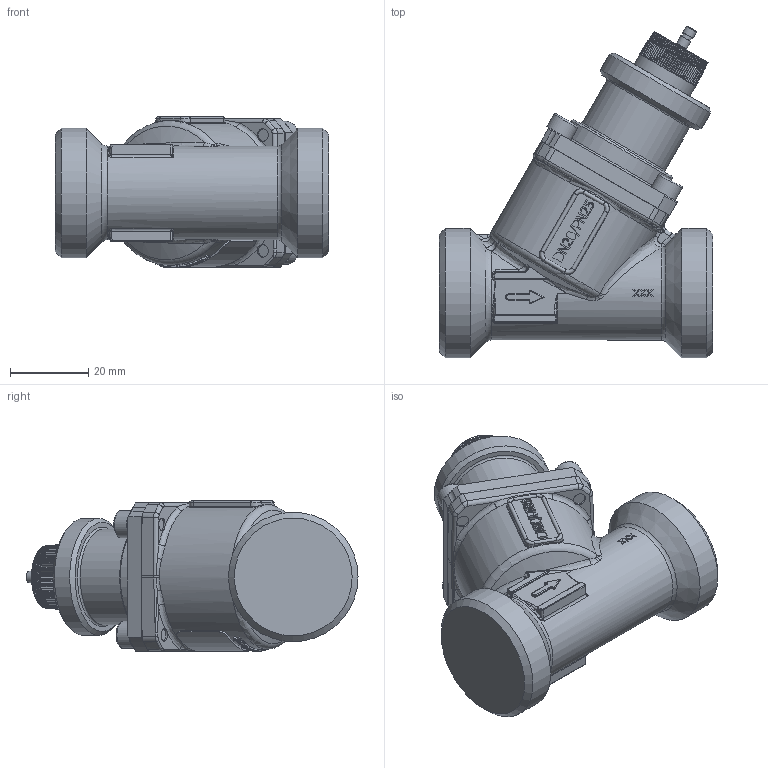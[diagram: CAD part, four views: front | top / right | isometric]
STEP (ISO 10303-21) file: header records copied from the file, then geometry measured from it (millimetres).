
FILE_DESCRIPTION((''),'2;1');
FILE_NAME('F:\Marketing\1marketing\Tegninger\Frese OPTIMA Compact\3D models\OPTIMA Compact MM DN20.stp','2012-09-05T14:53:41',('JJO'),(''),'Autodesk Inventor 2012','Autodesk Inventor 2012','');
FILE_SCHEMA(('AUTOMOTIVE_DESIGN { 1 0 10303 214 1 1 1 1 }'));
Length unit declared in the file: millimetre
Products named in the file (1): 53-1307_Shrinkwrap_1
Bounding box: 70 x 85.1 x 38.5 mm (x, y, z)
Surface area: 41262.2 mm2 (no closed solid volume)
Topology: 0 solids, 31 shells, 2411 faces, 6439 edges, 4131 vertices
Faces by surface type: plane 1216, cylinder 598, bspline 448, torus 95, cone 45, sphere 6, revolution 3
Full cylindrical faces by diameter (mm): 2.5 x1, 3 x3, 3.2 x2, 3.242 x4, 4 x5, 5 x1, 5.2 x1, 5.4 x2, 6 x2, 7 x4, 8 x1, 8.92 x1, 9.1 x1, 9.3 x1, 10 x1, 11 x1, 12.5 x1, 13.9 x2, 14 x1, 15 x2, 15.4 x1, 16.4 x1, 16.5 x1, 17 x1, 17.6 x1, 19 x1, 20 x1, 20.8 x1, 21.5 x1, 21.9 x1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
Entity records: 113037 total; most frequent: CARTESIAN_POINT 53422, ORIENTED_EDGE 12502, DIRECTION 10828, EDGE_CURVE 6251, VERTEX_POINT 4108, AXIS2_PLACEMENT_3D 3882, VECTOR 3061, LINE 3061
